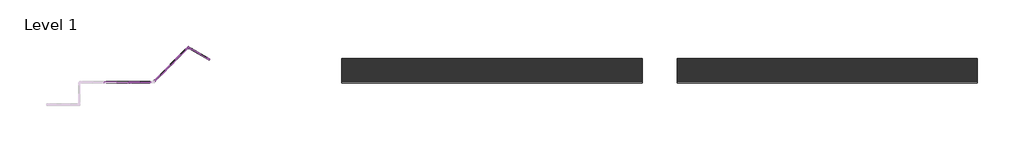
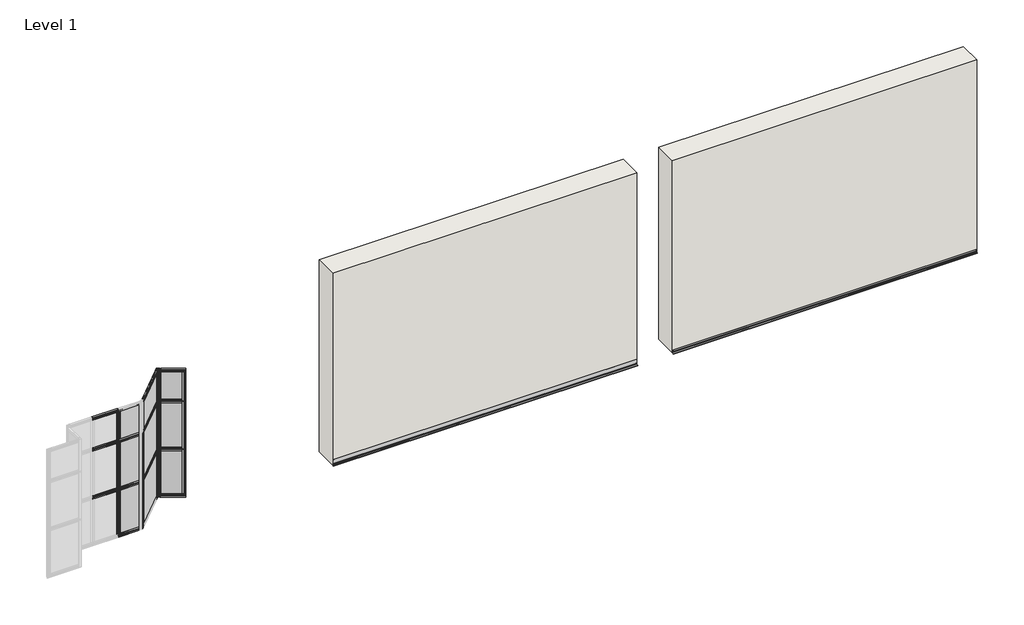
# One storey, part 2 of 2: 27 members, 9 plates, 2 proxies, 2 walls.
"""IFC4 building model written with IfcOpenShell, lengths in millimetres."""

from ifc_helpers import new_model, si_unit, point, frame, frame_2d, origin, place, context, project, spatial, polyline, circle_curve, trimmed, segment, composite_curve, outline, extrude, faceted_brep, transform, mapped, element, save
from ifc_brep_helpers import plane_surface, revolved_surface, advanced_brep
from components import rectangular_mullion_456614dd, rectangular_mullion_dcde6910, rectangular_mullion_d275acce, rectangular_mullion_638b4d6f, rectangular_mullion_b117a677, rectangular_mullion_66178f99, rectangular_mullion_0b3a4293, rectangular_mullion_quickpanel_reveal_general_horizontal_f1f892f9, rectangular_mullion_quickpanel_reveal_general_horizontal_2ba3c54e, rectangular_mullion_quickpanel_reveal_general_horizontal_2c9161bf, rectangular_mullion_quickpanel_reveal_general_horizontal_b5cb45a2, rectangular_mullion_quickpanel_reveal_general_horizontal_2cbfa09c, rectangular_mullion_quickpanel_reveal_general_horizontal_8d35d81b, rectangular_mullion_quickpanel_reveal_soffit_termination_top_eee424d8, rectangular_mullion_quickpanel_reveal_soffit_termination_top_a8f51e91, rectangular_mullion_quickpanel_reveal_soffit_termination_top_ec016376, rectangular_mullion_quickpanel_reveal_vertical_main_wall_7fc4f1b1, rectangular_mullion_quickpanel_reveal_vertical_main_wall_c7273b40, rectangular_mullion_quickpanel_reveal_vertical_termination_5b6c39c5, rectangular_mullion_quickpanel_reveal_vertical_termination_961054fc, rectangular_mullion_quickpanel_reveal_vertical_termination_18882283, quickpanel_4mm_acm_panel_4mm_acm_39144ba7, quickpanel_4mm_acm_panel_4mm_acm_1758e2e7, quickpanel_4mm_acm_panel_4mm_acm_029b9e35, quickpanel_4mm_acm_panel_4mm_acm_0aa18a6e, quickpanel_4mm_acm_panel_4mm_acm_c03f723a, quickpanel_4mm_acm_panel_4mm_acm_ee801b86, quickpanel_4mm_acm_panel_4mm_acm_099dd07b, quickpanel_4mm_acm_panel_4mm_acm_415f7794, quickpanel_4mm_acm_panel_4mm_acm_7344fa78

model = new_model("IFC4")

# Units and contexts
model_context = context("Model", 3, world=origin())
ifc_project = project(units=[si_unit("LENGTHUNIT", "METRE", prefix="MILLI")], contexts=[model_context])

# Site, building, storey
site = spatial("IfcSite", under=ifc_project)
building = spatial("IfcBuilding", under=site)
storey = spatial("IfcBuildingStorey", under=building, Name="Level 1", Elevation=0.0)

# Proxies
placement = place(None, origin())
element("IfcBuildingElementProxy", 1, Name="QuickPanel-Systems-Reveal-Flashing-QP07F", ObjectType="QuickPanel-Systems-Reveal-Flashing-QP07F", at=placement, inside=storey, context=model_context, shape_type="SweptSolid", body=[
    extrude(outline(composite_curve([segment(polyline([(1934.3800604, 0.9142392), (1934.3800604, -6.3449473), (1933.5863104, -6.3449473), (1933.5863104, 1.5802745), (1952.7143095, 4.9530568), (1952.7143095, 17.98086), (1953.2380703, 18.7272814)]), True, "CONTINUOUS"), segment(trimmed(circle_curve(frame_2d((1953.1196728, 19.054607)), 0.3480805), [point((1953.2380703, 18.7272814))], [point((1953.2380703, 19.3819326))], True, "CARTESIAN"), True, "CONTINUOUS"), segment(polyline([(1953.2380703, 19.3819326), (1952.7143095, 20.1283539), (1952.7143095, 82.5550527), (1953.5080595, 82.5550527), (1953.5080595, 20.1283539)]), True, "CONTINUOUS"), segment(trimmed(circle_curve(frame_2d((1953.1196728, 19.054607)), 1.1418305), [point((1953.5080595, 20.1283539))], [point((1953.5080595, 17.98086))], False, "CARTESIAN"), True, "CONTINUOUS"), segment(polyline([(1953.5080595, 17.98086), (1953.5080595, 5.0086486)]), True, "CONTINUOUS"), segment(trimmed(circle_curve(frame_2d((1952.6607862, 4.9979682)), 0.8473406), [point((1953.5080595, 5.0086486))], [point((1952.7973956, 4.1617123))], False, "CARTESIAN"), True, "CONTINUOUS"), segment(polyline([(1952.7973956, 4.1617123), (1934.3800604, 0.9142392)]), True, "CONTINUOUS")], self_intersect=False)), frame((2374.5052692, 0.0, 0.0), z_axis=(1.0, 0.0, 0.0), x_axis=(0.0, 1.0, 0.0)), (0.0, 0.0, 1.0), 4572.0),
])
element("IfcBuildingElementProxy", 2, Name="QuickPanel-Systems-Reveal-Flashing-QP07WSF", ObjectType="QuickPanel-Systems-Reveal-Flashing-QP07WSF", at=placement, inside=storey, context=model_context, shape_type="SweptSolid", body=[
    extrude(outline(composite_curve([segment(polyline([(1934.3800604, -4.0944095), (1934.3800604, -11.3535959), (1933.5863104, -11.3535959), (1933.5863104, -3.4283741), (1952.7143095, -0.0555918), (1952.7143095, 12.9722114), (1953.2380703, 13.7186328)]), True, "CONTINUOUS"), segment(trimmed(circle_curve(frame_2d((1953.1196728, 14.0459583)), 0.3480805), [point((1953.2380703, 13.7186328))], [point((1953.2380703, 14.3732839))], True, "CARTESIAN"), True, "CONTINUOUS"), segment(polyline([(1953.2380703, 14.3732839), (1952.7143095, 15.1197053), (1952.7143095, 39.4464041), (1953.5080595, 39.4464041), (1953.5080595, 15.1197053)]), True, "CONTINUOUS"), segment(trimmed(circle_curve(frame_2d((1953.1196728, 14.0459583)), 1.1418305), [point((1953.5080595, 15.1197053))], [point((1953.5080595, 12.9722114))], False, "CARTESIAN"), True, "CONTINUOUS"), segment(polyline([(1953.5080595, 12.9722114), (1953.5080595, 0.0)]), True, "CONTINUOUS"), segment(trimmed(circle_curve(frame_2d((1952.6607862, -0.0106804)), 0.8473406), [point((1953.5080595, 0.0))], [point((1952.7973956, -0.8469364))], False, "CARTESIAN"), True, "CONTINUOUS"), segment(polyline([(1952.7973956, -0.8469364), (1934.3800604, -4.0944095)]), True, "CONTINUOUS")], self_intersect=False)), frame((7479.9052692, 0.0, 0.0), z_axis=(1.0, 0.0, 0.0), x_axis=(0.0, 1.0, 0.0)), (0.0, 0.0, 1.0), 4572.0),
])

# Members
rectangular_mullion_shape = rectangular_mullion_456614dd(model_context)
element("IfcMember", 3, ObjectType="Rectangular Mullion : QuickPanel-Reveal_Multi-Angle-Inside-Corner-Trim-Right", at=placement, inside=storey, context=model_context, shape_type="MappedRepresentation", body=[
    mapped(rectangular_mullion_shape, transform((41.6264849, 2483.9593417, 0.0), x_axis=(0.7071067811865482, 0.7071067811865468, 0.0), y_axis=(0.7071067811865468, -0.7071067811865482, 0.0), z_axis=(0.0, 0.0, -1.0))),
])
rectangular_mullion_2_shape = rectangular_mullion_dcde6910(model_context)
element("IfcMember", 4, ObjectType="Rectangular Mullion : QuickPanel-Reveal_Multi-Angle-Outside-Corner-Trim-Left", at=placement, inside=storey, context=model_context, shape_type="MappedRepresentation", body=[
    mapped(rectangular_mullion_2_shape, transform((-497.1888824, 1945.1439745, 763.4314025), x_axis=(-0.7071067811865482, -0.7071067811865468, 0.0), y_axis=(0.7071067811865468, -0.7071067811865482, 0.0), z_axis=(0.0, 0.0, 1.0))),
])
rectangular_mullion_3_shape = rectangular_mullion_d275acce(model_context)
element("IfcMember", 5, ObjectType="Rectangular Mullion : QuickPanel-Reveal_Multi-Angle-Inside-Corner-Trim-Right", at=placement, inside=storey, context=model_context, shape_type="MappedRepresentation", body=[
    mapped(rectangular_mullion_3_shape, transform((41.6264849, 2483.9593417, 763.4314025), x_axis=(0.7071067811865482, 0.7071067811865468, 0.0), y_axis=(0.7071067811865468, -0.7071067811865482, 0.0), z_axis=(0.0, 0.0, -1.0))),
])
rectangular_mullion_4_shape = rectangular_mullion_638b4d6f(model_context)
element("IfcMember", 6, ObjectType="Rectangular Mullion : QuickPanel-Reveal_Multi-Angle-Inside-Corner-Trim-Right", at=placement, inside=storey, context=model_context, shape_type="MappedRepresentation", body=[
    mapped(rectangular_mullion_4_shape, transform((41.6264849, 2483.9593417, 1525.4314025), x_axis=(0.7071067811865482, 0.7071067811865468, 0.0), y_axis=(0.7071067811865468, -0.7071067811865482, 0.0), z_axis=(0.0, 0.0, -1.0))),
])
rectangular_mullion_5_shape = rectangular_mullion_b117a677(model_context)
element("IfcMember", 7, ObjectType="Rectangular Mullion : QuickPanel-Reveal_Multi-Angle-Outside-Corner-Trim-Left", at=placement, inside=storey, context=model_context, shape_type="MappedRepresentation", body=[
    mapped(rectangular_mullion_5_shape, transform((-497.1888824, 1945.1439745, 1525.4314025), x_axis=(-0.7071067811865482, -0.7071067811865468, 0.0), y_axis=(0.7071067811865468, -0.7071067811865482, 0.0), z_axis=(0.0, 0.0, 1.0))),
])
element("IfcMember", 8, ObjectType="Rectangular Mullion : QuickPanel-Reveal_Multi-Angle-Inside-Corner-Trim-Left", at=placement, inside=storey, context=model_context, shape_type="MappedRepresentation", body=[
    mapped(rectangular_mullion_4_shape, transform((30.4605958, 2482.4808235, 2032.0), x_axis=(-0.8660254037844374, 0.5000000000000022, 0.0), y_axis=(-0.5000000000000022, -0.8660254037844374, 0.0), z_axis=(0.0, 0.0, 1.0))),
])
element("IfcMember", 9, ObjectType="Rectangular Mullion : QuickPanel-Reveal_Multi-Angle-Inside-Corner-Trim-Left", at=placement, inside=storey, context=model_context, shape_type="MappedRepresentation", body=[
    mapped(rectangular_mullion_shape, transform((30.4605958, 2482.4808235, 763.4314025), x_axis=(-0.8660254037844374, 0.5000000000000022, 0.0), y_axis=(-0.5000000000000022, -0.8660254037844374, 0.0), z_axis=(0.0, 0.0, 1.0))),
])
element("IfcMember", 10, ObjectType="Rectangular Mullion : QuickPanel-Reveal_Multi-Angle-Inside-Corner-Trim-Left", at=placement, inside=storey, context=model_context, shape_type="MappedRepresentation", body=[
    mapped(rectangular_mullion_3_shape, transform((30.4605958, 2482.4808235, 1525.4314025), x_axis=(-0.8660254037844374, 0.5000000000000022, 0.0), y_axis=(-0.5000000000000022, -0.8660254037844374, 0.0), z_axis=(0.0, 0.0, 1.0))),
])
rectangular_mullion_6_shape = rectangular_mullion_66178f99(model_context)
element("IfcMember", 11, ObjectType="Rectangular Mullion : QuickPanel-Reveal_Projecting-Window-Sill-Trim", at=placement, inside=storey, context=model_context, shape_type="MappedRepresentation", body=[
    mapped(rectangular_mullion_6_shape, transform((-855.4669421, 1944.969178, 763.2962426), x_axis=(0.0, 0.0, 1.0), y_axis=(0.0, -1.0, 0.0), z_axis=(1.0, 0.0, 0.0))),
])
rectangular_mullion_7_shape = rectangular_mullion_0b3a4293(model_context)
element("IfcMember", 12, ObjectType="Rectangular Mullion : QuickPanel-Reveal_Projecting-Window-Jamb-Trim-Left", at=placement, inside=storey, context=model_context, shape_type="MappedRepresentation", body=[
    mapped(rectangular_mullion_7_shape, transform((-855.4669421, 1944.969178, 791.7293373), x_axis=(1.0, 0.0, 0.0), y_axis=(0.0, -1.0, 0.0), z_axis=(0.0, 0.0, -1.0))),
])
rectangular_mullion_quickpanel_reveal_general_horizontal_shape = rectangular_mullion_quickpanel_reveal_general_horizontal_f1f892f9(model_context)
element("IfcMember", 13, ObjectType="Rectangular Mullion : QuickPanel-Reveal_General-Horizontal-Trim", at=placement, inside=storey, context=model_context, shape_type="MappedRepresentation", body=[
    mapped(rectangular_mullion_quickpanel_reveal_general_horizontal_shape, transform((-1.0418051, 2441.2910517, 763.4314025), x_axis=(0.0, 0.0, 1.0), y_axis=(0.7071067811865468, -0.7071067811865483, 0.0), z_axis=(0.7071067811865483, 0.7071067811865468, 0.0))),
])
element("IfcMember", 14, ObjectType="Rectangular Mullion : QuickPanel-Reveal_General-Horizontal-Trim", at=placement, inside=storey, context=model_context, shape_type="MappedRepresentation", body=[
    mapped(rectangular_mullion_quickpanel_reveal_general_horizontal_shape, transform((-1.0418051, 2441.2910517, 1525.4314025), x_axis=(0.0, 0.0, 1.0), y_axis=(0.7071067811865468, -0.7071067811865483, 0.0), z_axis=(0.7071067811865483, 0.7071067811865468, 0.0))),
])
rectangular_mullion_quickpanel_reveal_general_horizontal_2_shape = rectangular_mullion_quickpanel_reveal_general_horizontal_2ba3c54e(model_context)
element("IfcMember", 15, ObjectType="Rectangular Mullion : QuickPanel-Reveal_General-Horizontal-Trim", at=placement, inside=storey, context=model_context, shape_type="MappedRepresentation", body=[
    mapped(rectangular_mullion_quickpanel_reveal_general_horizontal_2_shape, transform((-855.4669421, 1944.969178, 0.0), x_axis=(0.0, 0.0, -1.0), y_axis=(0.0, -1.0, 0.0), z_axis=(-1.0, 0.0, 0.0))),
])
rectangular_mullion_quickpanel_reveal_general_horizontal_3_shape = rectangular_mullion_quickpanel_reveal_general_horizontal_2c9161bf(model_context)
element("IfcMember", 16, ObjectType="Rectangular Mullion : QuickPanel-Reveal_General-Horizontal-Trim", at=placement, inside=storey, context=model_context, shape_type="MappedRepresentation", body=[
    mapped(rectangular_mullion_quickpanel_reveal_general_horizontal_3_shape, transform((82.7183652, 2452.3097863, 0.0), x_axis=(0.0, 0.0, -1.0), y_axis=(-0.5000000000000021, -0.8660254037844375, 0.0), z_axis=(-0.8660254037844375, 0.5000000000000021, 0.0))),
])
rectangular_mullion_quickpanel_reveal_general_horizontal_4_shape = rectangular_mullion_quickpanel_reveal_general_horizontal_b5cb45a2(model_context)
element("IfcMember", 17, ObjectType="Rectangular Mullion : QuickPanel-Reveal_General-Horizontal-Trim", at=placement, inside=storey, context=model_context, shape_type="MappedRepresentation", body=[
    mapped(rectangular_mullion_quickpanel_reveal_general_horizontal_4_shape, transform((-544.3754712, 1944.969178, 763.2962426), x_axis=(0.0, 0.0, 1.0), y_axis=(0.0, -1.0, 0.0), z_axis=(1.0, 0.0, 0.0))),
])
rectangular_mullion_quickpanel_reveal_general_horizontal_5_shape = rectangular_mullion_quickpanel_reveal_general_horizontal_2cbfa09c(model_context)
element("IfcMember", 18, ObjectType="Rectangular Mullion : QuickPanel-Reveal_General-Horizontal-Trim", at=placement, inside=storey, context=model_context, shape_type="MappedRepresentation", body=[
    mapped(rectangular_mullion_quickpanel_reveal_general_horizontal_5_shape, transform((323.4359712, 2313.3314117, 763.4314025), x_axis=(0.0, 0.0, 1.0), y_axis=(-0.5000000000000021, -0.8660254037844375, 0.0), z_axis=(0.8660254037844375, -0.5000000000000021, 0.0))),
])
element("IfcMember", 19, ObjectType="Rectangular Mullion : QuickPanel-Reveal_General-Horizontal-Trim", at=placement, inside=storey, context=model_context, shape_type="MappedRepresentation", body=[
    mapped(rectangular_mullion_quickpanel_reveal_general_horizontal_5_shape, transform((323.4359712, 2313.3314117, 1525.4314025), x_axis=(0.0, 0.0, 1.0), y_axis=(-0.5000000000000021, -0.8660254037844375, 0.0), z_axis=(0.8660254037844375, -0.5000000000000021, 0.0))),
])
element("IfcMember", 20, ObjectType="Rectangular Mullion : QuickPanel-Reveal_General-Horizontal-Trim", at=placement, inside=storey, context=model_context, shape_type="MappedRepresentation", body=[
    mapped(rectangular_mullion_quickpanel_reveal_general_horizontal_4_shape, transform((-544.3754712, 1944.969178, 1525.2962426), x_axis=(0.0, 0.0, 1.0), y_axis=(0.0, -1.0, 0.0), z_axis=(1.0, 0.0, 0.0))),
])
rectangular_mullion_quickpanel_reveal_general_horizontal_6_shape = rectangular_mullion_quickpanel_reveal_general_horizontal_8d35d81b(model_context)
element("IfcMember", 21, ObjectType="Rectangular Mullion : QuickPanel-Reveal_General-Horizontal-Trim", at=placement, inside=storey, context=model_context, shape_type="MappedRepresentation", body=[
    mapped(rectangular_mullion_quickpanel_reveal_general_horizontal_6_shape, transform((-855.4669421, 1944.969178, 1525.2962426), x_axis=(0.0, 0.0, 1.0), y_axis=(0.0, -1.0, 0.0), z_axis=(1.0, 0.0, 0.0))),
])
rectangular_mullion_quickpanel_reveal_soffit_termination_top_shape = rectangular_mullion_quickpanel_reveal_soffit_termination_top_eee424d8(model_context)
element("IfcMember", 22, ObjectType="Rectangular Mullion : QuickPanel-Reveal_Soffit-Termination-Top", at=placement, inside=storey, context=model_context, shape_type="MappedRepresentation", body=[
    mapped(rectangular_mullion_quickpanel_reveal_soffit_termination_top_shape, transform((-1.0418051, 2441.2910517, 2032.0), x_axis=(0.0, 0.0, 1.0), y_axis=(0.7071067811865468, -0.7071067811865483, 0.0), z_axis=(0.7071067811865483, 0.7071067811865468, 0.0))),
])
rectangular_mullion_quickpanel_reveal_soffit_termination_top_2_shape = rectangular_mullion_quickpanel_reveal_soffit_termination_top_a8f51e91(model_context)
element("IfcMember", 23, ObjectType="Rectangular Mullion : QuickPanel-Reveal_Soffit-Termination-Top", at=placement, inside=storey, context=model_context, shape_type="MappedRepresentation", body=[
    mapped(rectangular_mullion_quickpanel_reveal_soffit_termination_top_2_shape, transform((360.4162746, 2291.9808235, 2032.0), x_axis=(0.0, 0.0, 1.0), y_axis=(-0.5000000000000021, -0.8660254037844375, 0.0), z_axis=(0.8660254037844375, -0.5000000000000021, 0.0))),
])
rectangular_mullion_quickpanel_reveal_soffit_termination_top_3_shape = rectangular_mullion_quickpanel_reveal_soffit_termination_top_ec016376(model_context)
element("IfcMember", 24, ObjectType="Rectangular Mullion : QuickPanel-Reveal_Soffit-Termination-Top", at=placement, inside=storey, context=model_context, shape_type="MappedRepresentation", body=[
    mapped(rectangular_mullion_quickpanel_reveal_soffit_termination_top_3_shape, transform((-855.4669421, 1944.969178, 2032.0), x_axis=(0.0, 0.0, 1.0), y_axis=(0.0, -1.0, 0.0), z_axis=(1.0, 0.0, 0.0))),
])
rectangular_mullion_quickpanel_reveal_vertical_main_wall_shape = rectangular_mullion_quickpanel_reveal_vertical_main_wall_7fc4f1b1(model_context)
element("IfcMember", 25, ObjectType="Rectangular Mullion : QuickPanel-Reveal_Vertical-Main-Wall-Trim", at=placement, inside=storey, context=model_context, shape_type="MappedRepresentation", body=[
    mapped(rectangular_mullion_quickpanel_reveal_vertical_main_wall_shape, transform((-855.4669421, 1944.969178, 53.1926881), x_axis=(1.0, 0.0, 0.0), y_axis=(0.0, -1.0, 0.0), z_axis=(0.0, 0.0, -1.0))),
])
rectangular_mullion_quickpanel_reveal_vertical_main_wall_2_shape = rectangular_mullion_quickpanel_reveal_vertical_main_wall_c7273b40(model_context)
element("IfcMember", 26, ObjectType="Rectangular Mullion : QuickPanel-Reveal_Vertical-Main-Wall-Trim", at=placement, inside=storey, context=model_context, shape_type="MappedRepresentation", body=[
    mapped(rectangular_mullion_quickpanel_reveal_vertical_main_wall_2_shape, transform((-855.4669421, 1944.969178, 1553.6859501), x_axis=(1.0, 0.0, 0.0), y_axis=(0.0, -1.0, 0.0), z_axis=(0.0, 0.0, -1.0))),
])
rectangular_mullion_quickpanel_reveal_vertical_termination_shape = rectangular_mullion_quickpanel_reveal_vertical_termination_5b6c39c5(model_context)
element("IfcMember", 27, ObjectType="Rectangular Mullion : QuickPanel-Reveal_Vertical-Termination-Trim-Right", at=placement, inside=storey, context=model_context, shape_type="MappedRepresentation", body=[
    mapped(rectangular_mullion_quickpanel_reveal_vertical_termination_shape, transform((360.4162746, 2291.9808235, 1525.4314025), x_axis=(0.8660254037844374, -0.5000000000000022, 0.0), y_axis=(-0.5000000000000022, -0.8660254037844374, 0.0), z_axis=(0.0, 0.0, -1.0))),
])
rectangular_mullion_quickpanel_reveal_vertical_termination_2_shape = rectangular_mullion_quickpanel_reveal_vertical_termination_961054fc(model_context)
element("IfcMember", 28, ObjectType="Rectangular Mullion : QuickPanel-Reveal_Vertical-Termination-Trim-Right", at=placement, inside=storey, context=model_context, shape_type="MappedRepresentation", body=[
    mapped(rectangular_mullion_quickpanel_reveal_vertical_termination_2_shape, transform((360.4162746, 2291.9808235, 53.1926881), x_axis=(0.8660254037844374, -0.5000000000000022, 0.0), y_axis=(-0.5000000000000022, -0.8660254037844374, 0.0), z_axis=(0.0, 0.0, -1.0))),
])
rectangular_mullion_quickpanel_reveal_vertical_termination_3_shape = rectangular_mullion_quickpanel_reveal_vertical_termination_18882283(model_context)
element("IfcMember", 29, ObjectType="Rectangular Mullion : QuickPanel-Reveal_Vertical-Termination-Trim-Right", at=placement, inside=storey, context=model_context, shape_type="MappedRepresentation", body=[
    mapped(rectangular_mullion_quickpanel_reveal_vertical_termination_3_shape, transform((360.4162746, 2291.9808235, 763.4314025), x_axis=(0.8660254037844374, -0.5000000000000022, 0.0), y_axis=(-0.5000000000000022, -0.8660254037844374, 0.0), z_axis=(0.0, 0.0, -1.0))),
])

# Plates
quickpanel_4mm_acm_panel_4mm_acm_shape = quickpanel_4mm_acm_panel_4mm_acm_39144ba7(model_context)
element("IfcPlate", 30, ObjectType="QuickPanel_4mm-ACM : Panel_4mm-ACM", at=placement, inside=storey, context=model_context, shape_type="MappedRepresentation", body=[
    mapped(quickpanel_4mm_acm_panel_4mm_acm_shape, transform((-232.6010891, 2209.7317677, 778.1335766), x_axis=(0.7071067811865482, 0.7071067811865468, 0.0), y_axis=(-0.7071067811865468, 0.7071067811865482, 0.0), z_axis=(0.0, 0.0, 1.0))),
])
quickpanel_4mm_acm_panel_4mm_acm_2_shape = quickpanel_4mm_acm_panel_4mm_acm_1758e2e7(model_context)
element("IfcPlate", 31, ObjectType="QuickPanel_4mm-ACM : Panel_4mm-ACM", at=placement, inside=storey, context=model_context, shape_type="MappedRepresentation", body=[
    mapped(quickpanel_4mm_acm_panel_4mm_acm_2_shape, transform((203.0771682, 2382.820599, 778.1335766), x_axis=(0.8660254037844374, -0.5000000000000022, 0.0), y_axis=(0.5000000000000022, 0.8660254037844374, 0.0), z_axis=(0.0, 0.0, 1.0))),
])
quickpanel_4mm_acm_panel_4mm_acm_3_shape = quickpanel_4mm_acm_panel_4mm_acm_029b9e35(model_context)
element("IfcPlate", 32, ObjectType="QuickPanel_4mm-ACM : Panel_4mm-ACM", at=placement, inside=storey, context=model_context, shape_type="MappedRepresentation", body=[
    mapped(quickpanel_4mm_acm_panel_4mm_acm_3_shape, transform((-232.6010891, 2209.7317677, 39.5051548), x_axis=(0.7071067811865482, 0.7071067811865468, 0.0), y_axis=(-0.7071067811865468, 0.7071067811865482, 0.0), z_axis=(0.0, 0.0, 1.0))),
])
quickpanel_4mm_acm_panel_4mm_acm_4_shape = quickpanel_4mm_acm_panel_4mm_acm_0aa18a6e(model_context)
element("IfcPlate", 33, ObjectType="QuickPanel_4mm-ACM : Panel_4mm-ACM", at=placement, inside=storey, context=model_context, shape_type="MappedRepresentation", body=[
    mapped(quickpanel_4mm_acm_panel_4mm_acm_4_shape, transform((-232.6010891, 2209.7317677, 1540.1335766), x_axis=(0.7071067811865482, 0.7071067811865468, 0.0), y_axis=(-0.7071067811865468, 0.7071067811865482, 0.0), z_axis=(0.0, 0.0, 1.0))),
])
quickpanel_4mm_acm_panel_4mm_acm_5_shape = quickpanel_4mm_acm_panel_4mm_acm_c03f723a(model_context)
element("IfcPlate", 34, ObjectType="QuickPanel_4mm-ACM : Panel_4mm-ACM", at=placement, inside=storey, context=model_context, shape_type="MappedRepresentation", body=[
    mapped(quickpanel_4mm_acm_panel_4mm_acm_5_shape, transform((-686.6292093, 1944.969178, 39.5051548), x_axis=(1.0, 0.0, 0.0), y_axis=(0.0, 1.0, 0.0), z_axis=(0.0, 0.0, 1.0))),
])
quickpanel_4mm_acm_panel_4mm_acm_6_shape = quickpanel_4mm_acm_panel_4mm_acm_ee801b86(model_context)
element("IfcPlate", 35, ObjectType="QuickPanel_4mm-ACM : Panel_4mm-ACM", at=placement, inside=storey, context=model_context, shape_type="MappedRepresentation", body=[
    mapped(quickpanel_4mm_acm_panel_4mm_acm_6_shape, transform((-686.6292093, 1944.969178, 1539.9984168), x_axis=(1.0, 0.0, 0.0), y_axis=(0.0, 1.0, 0.0), z_axis=(0.0, 0.0, 1.0))),
])
quickpanel_4mm_acm_panel_4mm_acm_7_shape = quickpanel_4mm_acm_panel_4mm_acm_099dd07b(model_context)
element("IfcPlate", 36, ObjectType="QuickPanel_4mm-ACM : Panel_4mm-ACM", at=placement, inside=storey, context=model_context, shape_type="MappedRepresentation", body=[
    mapped(quickpanel_4mm_acm_panel_4mm_acm_7_shape, transform((203.0771682, 2382.820599, 39.5051548), x_axis=(0.8660254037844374, -0.5000000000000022, 0.0), y_axis=(0.5000000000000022, 0.8660254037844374, 0.0), z_axis=(0.0, 0.0, 1.0))),
])
quickpanel_4mm_acm_panel_4mm_acm_8_shape = quickpanel_4mm_acm_panel_4mm_acm_415f7794(model_context)
element("IfcPlate", 37, ObjectType="QuickPanel_4mm-ACM : Panel_4mm-ACM", at=placement, inside=storey, context=model_context, shape_type="MappedRepresentation", body=[
    mapped(quickpanel_4mm_acm_panel_4mm_acm_8_shape, transform((203.0771682, 2382.820599, 1540.1335766), x_axis=(0.8660254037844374, -0.5000000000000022, 0.0), y_axis=(0.5000000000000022, 0.8660254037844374, 0.0), z_axis=(0.0, 0.0, 1.0))),
])
quickpanel_4mm_acm_panel_4mm_acm_9_shape = quickpanel_4mm_acm_panel_4mm_acm_7344fa78(model_context)
element("IfcPlate", 38, ObjectType="QuickPanel_4mm-ACM : Panel_4mm-ACM", at=placement, inside=storey, context=model_context, shape_type="MappedRepresentation", body=[
    mapped(quickpanel_4mm_acm_panel_4mm_acm_9_shape, transform((-680.6583364, 1944.969178, 777.9984168), x_axis=(1.0, 0.0, 0.0), y_axis=(0.0, 1.0, 0.0), z_axis=(0.0, 0.0, 1.0))),
])

# Walls
element("IfcWall", 39, ObjectType="Exterior - Brick on Mtl. Stud", at=placement, inside=storey, context=model_context, shape_type="Brep", body=[
    faceted_brep([(2374.5052692, 1953.5080595, 0.0), (6946.5052692, 1953.5080595, 0.0), (6946.5052692, 1953.5080595, 5.0086486), (6946.5052692, 1953.5080595, 17.98086), (6946.5052692, 1953.5080595, 20.1283539), (6946.5052692, 1953.5080595, 82.5550527), (6946.5052692, 1953.5080595, 3048.0), (2374.5052692, 1953.5080595, 3048.0), (2374.5052692, 1953.5080595, 82.5550527), (2374.5052692, 1953.5080595, 20.1283539), (2374.5052692, 1953.5080595, 17.98086), (2374.5052692, 1953.5080595, 4.9872878), (2374.5052692, 2305.9330595, 0.0), (2374.5052692, 2305.9330595, 3048.0), (6946.5052692, 2305.9330595, 3048.0), (6946.5052692, 2305.9330595, 0.0)], [[[0, 1, 2, 3, 4, 5, 6, 7, 8, 9, 10, 11]], [[12, 13, 14, 15]], [[1, 0, 12, 15]], [[6, 5, 4, 3, 2, 1, 15, 14]], [[7, 6, 14, 13]], [[0, 11, 10, 9, 8, 7, 13, 12]]]),
])
element("IfcWall", 40, ObjectType="Exterior - Brick on Mtl. Stud", at=placement, inside=storey, context=model_context, shape_type="AdvancedBrep", body=[
    advanced_brep(
    [(7479.9052692, 1953.5080595, 0.0), (12051.9052692, 1953.5080595, 0.0), (12051.9052692, 1953.5080595, 12.9722114), (7479.9052692, 1953.5080595, 12.9722114), (12051.9052692, 1953.5080595, 3048.0), (7479.9052692, 1953.5080595, 3048.0), (7479.9052692, 1953.5080595, 39.4464041), (7479.9052692, 1953.5080595, 15.1197053), (12051.9052692, 1953.5080595, 15.1197053), (12051.9052692, 1953.5080595, 39.4464041), (12051.9052692, 2305.9330595, 0.0), (7479.9052692, 2305.9330595, 0.0), (7479.9052692, 2305.9330595, 3048.0), (12051.9052692, 2305.9330595, 3048.0)],
    [
        (0, 1),
        (1, 2),
        (2, 3),
        (3, 0),
        (4, 5),
        (5, 6),
        (6, 7),
        (7, 8),
        (8, 9),
        (9, 4),
        (10, 11),
        (11, 12),
        (12, 13),
        (13, 10),
        (0, 11),
        (10, 1),
        (13, 4),
        (8, 2, circle_curve(frame((12051.9052692, 1953.1196728, 14.0459583), z_axis=(-1.0, 0.0, 0.0), x_axis=(0.0, -1.0, 0.0)), 1.1418305)),
        (12, 5),
        (3, 7, circle_curve(frame((7479.9052692, 1953.1196728, 14.0459583), z_axis=(1.0, 0.0, 0.0), x_axis=(0.0, -1.0, 0.0)), 1.1418305)),
    ],
    [
        plane_surface(frame((7479.9052692, 1953.5080595, 0.0), z_axis=(0.0, -1.0, 0.0), x_axis=(1.0, 0.0, 0.0))),
        plane_surface(frame((7479.9052692, 2305.9330595, 0.0), z_axis=(0.0, 1.0, 0.0), x_axis=(-1.0, 0.0, 0.0))),
        plane_surface(frame((7479.9052692, 1953.5080595, 0.0), z_axis=(0.0, 0.0, -1.0), x_axis=(0.0, 1.0, 0.0))),
        plane_surface(frame((12051.9052692, 1953.5080595, 0.0), z_axis=(1.0, 0.0, 0.0), x_axis=(0.0, 1.0, 0.0))),
        plane_surface(frame((12051.9052692, 1953.5080595, 3048.0), z_axis=(0.0, 0.0, 1.0), x_axis=(0.0, 1.0, 0.0))),
        plane_surface(frame((7479.9052692, 1953.5080595, 3048.0), z_axis=(-1.0, 0.0, 0.0), x_axis=(0.0, 1.0, 0.0))),
        revolved_surface(polyline([(7479.9052692, 1951.9778423, 14.0459583), (12051.9052692, 1951.9778423, 14.0459583)]), (7479.9052692, 1953.1196728, 14.0459583), (-1.0, 0.0, 0.0)),
    ],
    [
        (0, [[1, 2, 3, 4]]),
        (0, [[5, 6, 7, 8, 9, 10]]),
        (1, [[11, 12, 13, 14]]),
        (2, [[-1, 15, -11, 16]]),
        (3, [[-14, 17, -10, -9, 18, -2, -16]]),
        (4, [[-5, -17, -13, 19]]),
        (5, [[-12, -15, -4, 20, -7, -6, -19]]),
        (6, [[-8, -20, -3, -18]]),
    ],
),
])

save(model, "model.ifc")
